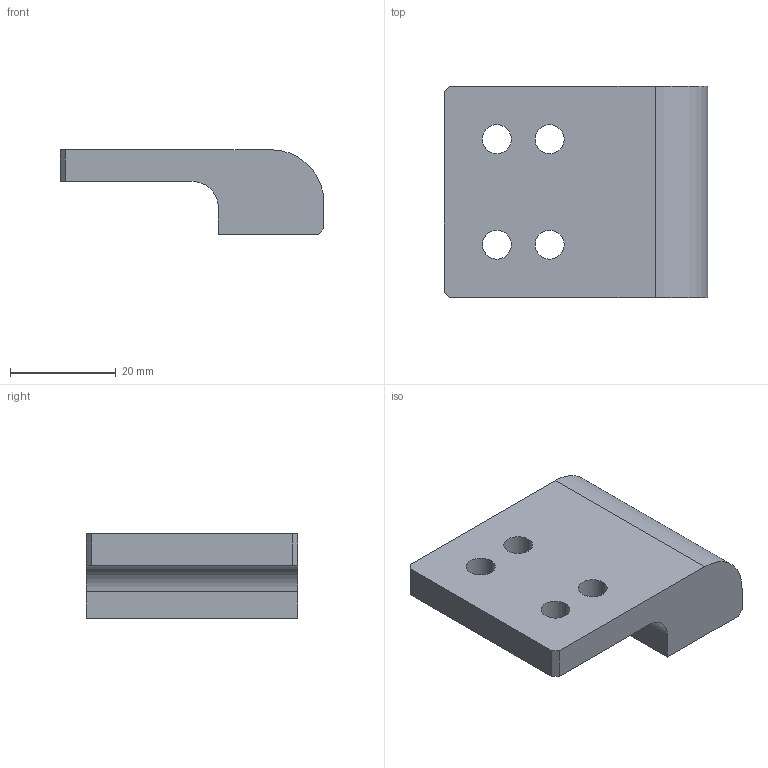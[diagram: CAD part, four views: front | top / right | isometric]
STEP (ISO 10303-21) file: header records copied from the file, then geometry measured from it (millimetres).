
FILE_DESCRIPTION (( 'STEP AP214' ), '1' );
FILE_NAME ('GZ27.09_V1µ¼ÏòÑ¹¿é.STEP', '2021-04-11T10:15:17', ( 'hp' ), ( '' ), 'SwSTEP 2.0', 'SolidWorks 2017', '' );
FILE_SCHEMA (( 'AUTOMOTIVE_DESIGN' ));
Length unit declared in the file: millimetre
Products named in the file (1): GZ27.09_V1絳砃揤輸
Bounding box: 50 x 40 x 16 mm (x, y, z)
Volume: 18760 mm3; surface area: 6181.5 mm2
Topology: 1 solids, 1 shells, 21 faces, 57 edges, 38 vertices
Faces by surface type: plane 11, cylinder 10
Entity records: 721 total; most frequent: DIRECTION 121, CARTESIAN_POINT 117, ORIENTED_EDGE 114, EDGE_CURVE 57, AXIS2_PLACEMENT_3D 42, VERTEX_POINT 38, VECTOR 37, LINE 37
